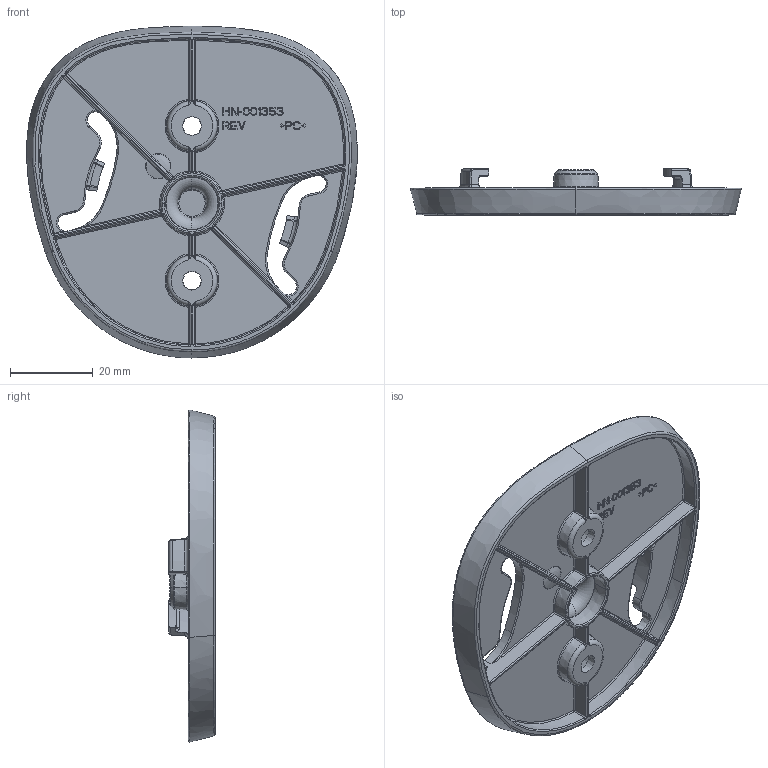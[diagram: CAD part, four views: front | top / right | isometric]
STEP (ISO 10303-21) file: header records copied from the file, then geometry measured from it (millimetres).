
FILE_DESCRIPTION((''),'2;1');
FILE_NAME('BRKT-LM0093C-04_ASM','2019-08-28T12:55:12',('wvsadmin'),('Zebra Technologies Corp.'),'CREO PARAMETRIC BY PTC INC, 2018420','CREO PARAMETRIC BY PTC INC, 2018420','');
FILE_SCHEMA(('AUTOMOTIVE_DESIGN { 1 0 10303 214 1 1 1 1 }'));
Products named in the file (2): HN-001353-04_PRT; BRKT-LM0093C-04_ASM
Assembly tree (1 placements, depth 2):
  BRKT-LM0093C-04_ASM
    HN-001353-04_PRT
Bounding box: 80.2 x 11.2 x 80.48 mm (x, y, z)
Volume: 15769.5 mm3; surface area: 14858.6 mm2
Topology: 1 solids, 1 shells, 892 faces, 2284 edges, 1434 vertices
Faces by surface type: plane 522, bspline 160, cylinder 68, torus 54, sphere 38, cone 36, extrusion 14
Entity records: 44591 total; most frequent: CARTESIAN_POINT 16913, ORIENTED_EDGE 4566, DIRECTION 3814, PRESENTATION_STYLE_ASSIGNMENT 2286, STYLED_ITEM 2286, CURVE_STYLE 2285, EDGE_CURVE 2283, VECTOR 1528
